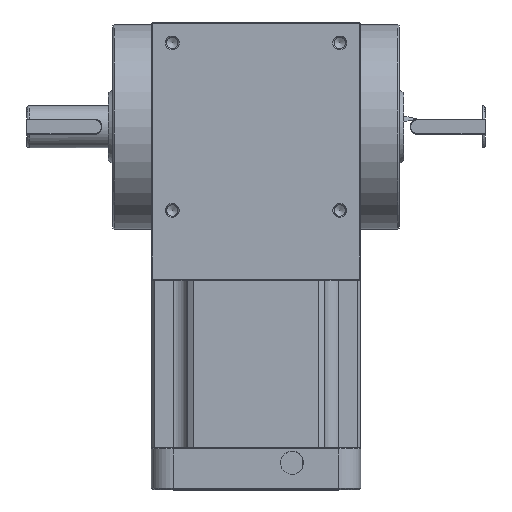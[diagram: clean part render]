
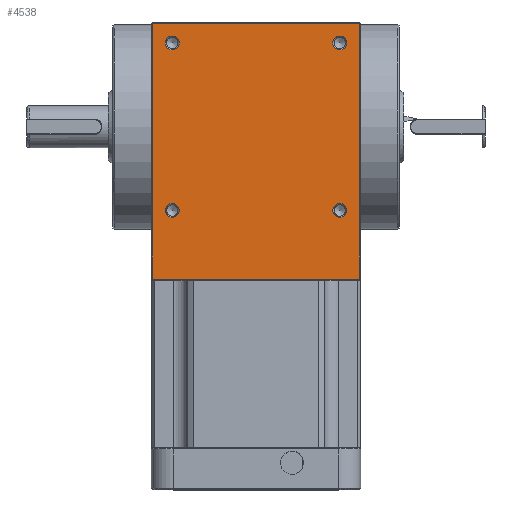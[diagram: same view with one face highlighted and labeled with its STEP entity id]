
A CAD part, top view. The second image highlights one B-rep face of the part: STEP entity #4538.
In plain terms, the highlighted planar face has unit normal (0, 0, 1).
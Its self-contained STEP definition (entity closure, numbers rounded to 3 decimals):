
#3866=CARTESIAN_POINT('',(44.5,-65.5,45.0));
#3867=VERTEX_POINT('',#3866);
#3922=CARTESIAN_POINT('',(44.5,44.5,45.0));
#3923=VERTEX_POINT('',#3922);
#3974=CARTESIAN_POINT('',(-44.5,-65.5,45.0));
#3975=VERTEX_POINT('',#3974);
#4006=CARTESIAN_POINT('',(-44.5,44.5,45.0));
#4007=VERTEX_POINT('',#4006);
#4059=CARTESIAN_POINT('',(-44.5,-65.5,45.0));
#4060=DIRECTION('',(0.0,1.0,0.0));
#4061=VECTOR('',#4060,110.0);
#4062=LINE('',#4059,#4061);
#4063=EDGE_CURVE('',#3975,#4007,#4062,.T.);
#4081=CARTESIAN_POINT('',(-44.5,44.5,45.0));
#4082=DIRECTION('',(1.0,0.0,0.0));
#4083=VECTOR('',#4082,89.);
#4084=LINE('',#4081,#4083);
#4085=EDGE_CURVE('',#4007,#3923,#4084,.T.);
#4131=CARTESIAN_POINT('',(44.5,-65.5,45.0));
#4132=DIRECTION('',(-1.0,0.0,0.0));
#4133=VECTOR('',#4132,89.);
#4134=LINE('',#4131,#4133);
#4135=EDGE_CURVE('',#3867,#3975,#4134,.T.);
#4153=CARTESIAN_POINT('',(44.5,44.5,45.0));
#4154=DIRECTION('',(0.0,-1.0,0.0));
#4155=VECTOR('',#4154,110.0);
#4156=LINE('',#4153,#4155);
#4157=EDGE_CURVE('',#3923,#3867,#4156,.T.);
#4483=CARTESIAN_POINT('',(0.,0.,45.0));
#4484=DIRECTION('',(0.0,0.0,1.0));
#4485=DIRECTION('',(1.0,0.0,0.0));
#4486=AXIS2_PLACEMENT_3D('',#4483,#4484,#4485);
#4487=PLANE('',#4486);
#4488=ORIENTED_EDGE('',*,*,#4063,.F.);
#4489=ORIENTED_EDGE('',*,*,#4135,.F.);
#4490=ORIENTED_EDGE('',*,*,#4157,.F.);
#4491=ORIENTED_EDGE('',*,*,#4085,.F.);
#4492=EDGE_LOOP('',(#4488,#4489,#4490,#4491));
#4493=FACE_OUTER_BOUND('',#4492,.T.);
#4494=CARTESIAN_POINT('',(33.042,-36.0,45.0));
#4495=VERTEX_POINT('',#4494);
#4496=CARTESIAN_POINT('',(36.,-36.0,45.0));
#4497=DIRECTION('',(0.0,0.0,1.0));
#4498=DIRECTION('',(1.0,0.0,0.0));
#4499=AXIS2_PLACEMENT_3D('',#4496,#4497,#4498);
#4500=CIRCLE('',#4499,2.958);
#4501=EDGE_CURVE('',#4495,#4495,#4500,.T.);
#4502=ORIENTED_EDGE('',*,*,#4501,.F.);
#4503=EDGE_LOOP('',(#4502));
#4504=FACE_BOUND('',#4503,.T.);
#4505=CARTESIAN_POINT('',(-33.042,-36.,45.0));
#4506=VERTEX_POINT('',#4505);
#4507=CARTESIAN_POINT('',(-36.,-36.,45.0));
#4508=DIRECTION('',(0.0,0.0,1.0));
#4509=DIRECTION('',(-1.0,0.0,0.0));
#4510=AXIS2_PLACEMENT_3D('',#4507,#4508,#4509);
#4511=CIRCLE('',#4510,2.958);
#4512=EDGE_CURVE('',#4506,#4506,#4511,.T.);
#4513=ORIENTED_EDGE('',*,*,#4512,.F.);
#4514=EDGE_LOOP('',(#4513));
#4515=FACE_BOUND('',#4514,.T.);
#4516=CARTESIAN_POINT('',(-33.042,36.,45.0));
#4517=VERTEX_POINT('',#4516);
#4518=CARTESIAN_POINT('',(-36.,36.,45.0));
#4519=DIRECTION('',(0.0,0.0,1.0));
#4520=DIRECTION('',(-1.0,0.0,0.0));
#4521=AXIS2_PLACEMENT_3D('',#4518,#4519,#4520);
#4522=CIRCLE('',#4521,2.958);
#4523=EDGE_CURVE('',#4517,#4517,#4522,.T.);
#4524=ORIENTED_EDGE('',*,*,#4523,.F.);
#4525=EDGE_LOOP('',(#4524));
#4526=FACE_BOUND('',#4525,.T.);
#4527=CARTESIAN_POINT('',(33.042,36.0,45.0));
#4528=VERTEX_POINT('',#4527);
#4529=CARTESIAN_POINT('',(36.,36.0,45.0));
#4530=DIRECTION('',(0.0,0.0,1.0));
#4531=DIRECTION('',(1.0,0.0,0.0));
#4532=AXIS2_PLACEMENT_3D('',#4529,#4530,#4531);
#4533=CIRCLE('',#4532,2.958);
#4534=EDGE_CURVE('',#4528,#4528,#4533,.T.);
#4535=ORIENTED_EDGE('',*,*,#4534,.F.);
#4536=EDGE_LOOP('',(#4535));
#4537=FACE_BOUND('',#4536,.T.);
#4538=ADVANCED_FACE('',(#4493,#4504,#4515,#4526,#4537),#4487,.T.);
